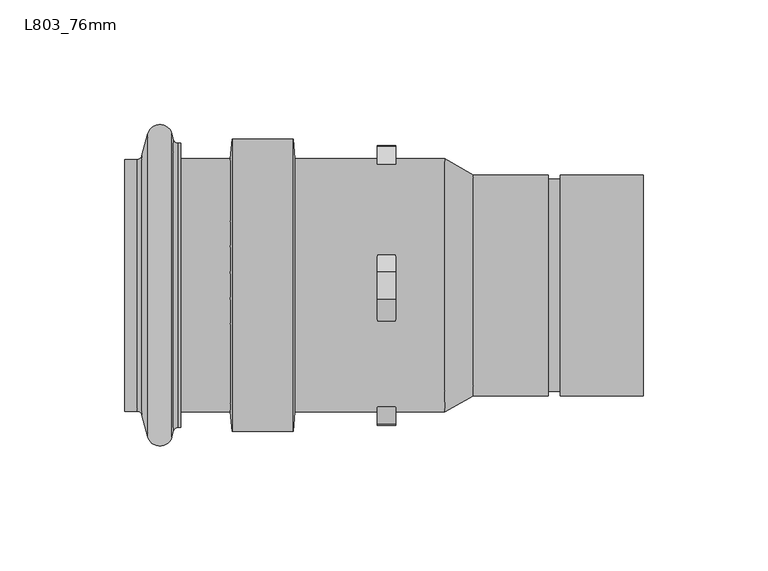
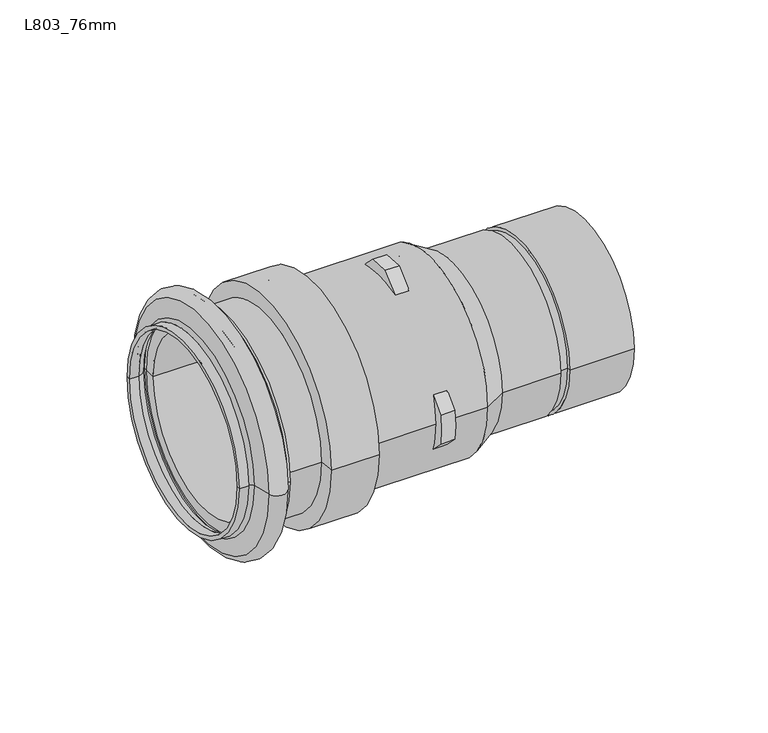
"""IFC4 building model written with IfcOpenShell, lengths in millimetres: pipe fitting geometry, Durapipe_PipeFitting_VulcatheneEnfusion_ThermalStressReliefUnit_L80 : L803_76mm."""

from ifc_helpers import new_model, si_unit, point, frame, origin, place, context, project, spatial, polyline, circle_curve, ellipse_curve, trimmed, source, transform, mapped, element, save
from ifc_brep_helpers import plane_surface, cylinder_surface, revolved_surface, advanced_brep


def l803_76mm_d1b0d75b(model_context):
    return source(origin(), model_context, "Body", "AdvancedBrep", [
        advanced_brep(
        [(70.6511863, -42.6605889, 0.0), (70.6511863, 42.6605889, 0.0), (70.6511863, 44.285, 0.0), (70.6511863, -44.285, 0.0), (65.9011863, -42.6605889, 0.0), (65.9011863, 42.6605889, 0.0), (65.9011863, -44.3009939, 0.0), (65.9011863, 44.3009939, 0.0), (35.8928021, -44.3009939, 0.0), (35.8928021, 44.3009939, 0.0), (24.4629882, -50.9, 0.0), (24.4629882, 50.9, 0.0), (4.656689, -50.9, 0.0), (4.656689, -48.6786742, -14.8726824), (-2.6993852, -48.6786742, -14.8726824), (-2.6993852, -50.9, 0.0), (-35.702791, -50.9, 0.0), (-35.702791, 50.9, 0.0), (-2.6993852, 50.9, 0.0), (-2.6993852, 48.6786742, -14.8726824), (4.656689, 48.6786742, -14.8726824), (4.656689, 50.9, 0.0), (4.656689, -14.6005507, -48.7609877), (4.656689, 12.4528205, -49.353189), (-2.6993852, 12.4528205, -49.353189), (-2.6993852, -14.6005507, -48.7609877), (4.656689, 48.6786742, 14.8726824), (-2.6993852, 48.6786742, 14.8726824), (-2.6993852, -48.6786742, 14.8726824), (4.656689, -48.6786742, 14.8726824), (4.656689, 12.4528205, 49.353189), (4.656689, -14.6005507, 48.7609877), (-2.6993852, -14.6005507, 48.7609877), (-2.6993852, 12.4528205, 49.353189), (-36.3808281, -58.65, 0.0), (-36.3808281, 58.65, 0.0), (-60.9219629, -58.65, 0.0), (-60.9219629, 58.65, 0.0), (-61.6, -50.9, 0.0), (-61.6, 50.9, 0.0), (-81.6, -50.9, 0.0), (-81.6, 50.9, 0.0), (-81.6, -57.0, 0.0), (-81.6, 57.0, 0.0), (-82.4906747, -57.0, 0.0), (-82.4906747, 57.0, 0.0), (-84.4225263, -58.4823619, 0.0), (-84.4225263, 58.4823619, 0.0), (-85.0534843, -60.8371291, 0.0), (-85.0534843, 60.8371291, 0.0), (-94.7127425, -60.8371291, 0.0), (-94.7127425, 60.8371291, 0.0), (-97.0851021, -51.9833626, 0.0), (-97.0851021, 51.9833626, 0.0), (-99.0182579, -50.5, 0.0), (-99.0182579, 50.5, 0.0), (-104.0, -50.5, 0.0), (-104.0, 50.5, 0.0), (-104.0, -48.5, 0.0), (-104.0, 48.5, 0.0), (-99.0182579, -48.5, 0.0), (-99.0182579, 48.5, 0.0), (-95.1532505, -51.4657245, 0.0), (-95.1532505, 51.4657245, 0.0), (-92.7808909, -60.319491, 0.0), (-92.7808909, 60.319491, 0.0), (-86.9853359, -60.319491, 0.0), (-86.9853359, 60.319491, 0.0), (-86.3638715, -57.9632181, 0.0), (-86.3638715, 57.9632181, 0.0), (-82.5060032, -55.0037398, 0.0), (-82.5060032, 55.0037398, 0.0), (-82.5060032, -50.9, 0.0), (-82.5060032, 50.9, 0.0), (-85.9212103, -50.9, 0.0), (-85.9212103, 50.9, 0.0), (-93.8774224, -50.9, 0.0), (-93.8774224, 50.9, 0.0), (-93.8774224, -44.7961146, 0.0), (-93.8774224, 44.7961146, 0.0), (-55.1274224, -44.7961146, 0.0), (-55.1274224, 44.7961146, 0.0), (-55.1274224, -53.0, 0.0), (-55.1274224, 53.0, 0.0), (-42.1274224, -53.0, 0.0), (-42.1274224, 53.0, 0.0), (-42.1274224, -44.7961146, 0.0), (-42.1274224, 44.7961146, 0.0), (22.8081209, -44.7961146, 0.0), (22.8081209, 44.7961146, 0.0), (34.4321124, -38.085, 0.0), (34.4321124, 38.085, 0.0), (104.0, -38.085, 0.0), (104.0, 38.085, 0.0), (104.0, -44.285, 0.0), (104.0, 44.285, 0.0), (4.656689, 5.4415035, 56.3645059), (4.656689, -5.4415035, 56.8451631), (4.656689, -5.4415035, -56.8451631), (4.656689, 5.4415035, -56.3645059), (4.656689, -55.6098531, 7.9415035), (4.656689, -55.6098531, -7.9415035), (4.656689, 55.6098531, -7.9415035), (4.656689, 55.6098531, 7.9415035), (-2.6993852, -5.4415035, 56.8451631), (-2.6993852, 5.4415035, 56.3645059), (-2.6993852, 5.4415035, -56.3645059), (-2.6993852, -5.4415035, -56.8451631), (-2.6993852, -55.6098531, -7.9415035), (-2.6993852, -55.6098531, 7.9415035), (-2.6993852, 55.6098531, 7.9415035), (-2.6993852, 55.6098531, -7.9415035)],
        [
            (0, 1, circle_curve(frame((70.6511863, 0.0, 0.0), z_axis=(1.0, 0.0, 0.0), x_axis=(0.0, 1.0, 0.0)), 42.6605889)),
            (1, 2),
            (2, 3, circle_curve(frame((70.6511863, 0.0, 0.0), z_axis=(-1.0, 0.0, 0.0), x_axis=(0.0, 1.0, 0.0)), 44.285)),
            (3, 0),
            (1, 0, circle_curve(frame((70.6511863, 0.0, 0.0), z_axis=(1.0, 0.0, 0.0), x_axis=(0.0, 1.0, 0.0)), 42.6605889)),
            (3, 2, circle_curve(frame((70.6511863, 0.0, 0.0), z_axis=(-1.0, 0.0, 0.0), x_axis=(0.0, 1.0, 0.0)), 44.285)),
            (0, 4),
            (4, 5, circle_curve(frame((65.9011863, 0.0, 0.0), z_axis=(1.0, 0.0, 0.0), x_axis=(0.0, 1.0, 0.0)), 42.6605889)),
            (5, 1),
            (5, 4, circle_curve(frame((65.9011863, 0.0, 0.0), z_axis=(1.0, 0.0, 0.0), x_axis=(0.0, 1.0, 0.0)), 42.6605889)),
            (4, 6),
            (6, 7, circle_curve(frame((65.9011863, 0.0, 0.0), z_axis=(1.0, 0.0, 0.0), x_axis=(0.0, 1.0, 0.0)), 44.3009939)),
            (7, 5),
            (7, 6, circle_curve(frame((65.9011863, 0.0, 0.0), z_axis=(1.0, 0.0, 0.0), x_axis=(0.0, 1.0, 0.0)), 44.3009939)),
            (6, 8),
            (8, 9, circle_curve(frame((35.8928021, 0.0, 0.0), z_axis=(1.0, 0.0, 0.0), x_axis=(0.0, 1.0, 0.0)), 44.3009939)),
            (9, 7),
            (9, 8, circle_curve(frame((35.8928021, 0.0, 0.0), z_axis=(1.0, 0.0, 0.0), x_axis=(0.0, 1.0, 0.0)), 44.3009939)),
            (8, 10),
            (10, 11, circle_curve(frame((24.4629882, 0.0, 0.0), z_axis=(1.0, 0.0, 0.0), x_axis=(0.0, 1.0, 0.0)), 50.9)),
            (11, 9),
            (11, 10, circle_curve(frame((24.4629882, 0.0, 0.0), z_axis=(1.0, 0.0, 0.0), x_axis=(0.0, 1.0, 0.0)), 50.9)),
            (10, 12),
            (12, 13, circle_curve(frame((4.656689, 0.0, 0.0), z_axis=(1.0, 0.0, 0.0), x_axis=(0.0, 1.0, 0.0)), 50.9)),
            (13, 14),
            (14, 15, circle_curve(frame((-2.6993852, 0.0, 0.0), z_axis=(-1.0, 0.0, 0.0), x_axis=(0.0, 1.0, 0.0)), 50.9)),
            (15, 16),
            (16, 17, circle_curve(frame((-35.702791, 0.0, 0.0), z_axis=(1.0, 0.0, 0.0), x_axis=(0.0, 1.0, 0.0)), 50.9)),
            (17, 18),
            (18, 19, circle_curve(frame((-2.6993852, 0.0, 0.0), z_axis=(-1.0, 0.0, 0.0), x_axis=(0.0, 1.0, 0.0)), 50.9)),
            (19, 20),
            (20, 21, circle_curve(frame((4.656689, 0.0, 0.0), z_axis=(1.0, 0.0, 0.0), x_axis=(0.0, 1.0, 0.0)), 50.9)),
            (21, 11),
            (22, 23, circle_curve(frame((4.656689, 0.0, 0.0), z_axis=(1.0, 0.0, 0.0), x_axis=(0.0, 1.0, 0.0)), 50.9)),
            (23, 24),
            (24, 25, circle_curve(frame((-2.6993852, 0.0, 0.0), z_axis=(-1.0, 0.0, 0.0), x_axis=(0.0, 1.0, 0.0)), 50.9)),
            (25, 22),
            (21, 26, circle_curve(frame((4.656689, 0.0, 0.0), z_axis=(1.0, 0.0, 0.0), x_axis=(0.0, 1.0, 0.0)), 50.9)),
            (26, 27),
            (27, 18, circle_curve(frame((-2.6993852, 0.0, 0.0), z_axis=(-1.0, 0.0, 0.0), x_axis=(0.0, 1.0, 0.0)), 50.9)),
            (17, 16, circle_curve(frame((-35.702791, 0.0, 0.0), z_axis=(1.0, 0.0, 0.0), x_axis=(0.0, 1.0, 0.0)), 50.9)),
            (15, 28, circle_curve(frame((-2.6993852, 0.0, 0.0), z_axis=(-1.0, 0.0, 0.0), x_axis=(0.0, 1.0, 0.0)), 50.9)),
            (28, 29),
            (29, 12, circle_curve(frame((4.656689, 0.0, 0.0), z_axis=(1.0, 0.0, 0.0), x_axis=(0.0, 1.0, 0.0)), 50.9)),
            (30, 31, circle_curve(frame((4.656689, 0.0, 0.0), z_axis=(1.0, 0.0, 0.0), x_axis=(0.0, 1.0, 0.0)), 50.9)),
            (31, 32),
            (32, 33, circle_curve(frame((-2.6993852, 0.0, 0.0), z_axis=(-1.0, 0.0, 0.0), x_axis=(0.0, 1.0, 0.0)), 50.9)),
            (33, 30),
            (16, 34),
            (34, 35, circle_curve(frame((-36.3808281, 0.0, 0.0), z_axis=(1.0, 0.0, 0.0), x_axis=(0.0, 1.0, 0.0)), 58.65)),
            (35, 17),
            (35, 34, circle_curve(frame((-36.3808281, 0.0, 0.0), z_axis=(1.0, 0.0, 0.0), x_axis=(0.0, 1.0, 0.0)), 58.65)),
            (34, 36),
            (36, 37, circle_curve(frame((-60.9219629, 0.0, 0.0), z_axis=(1.0, 0.0, 0.0), x_axis=(0.0, 1.0, 0.0)), 58.65)),
            (37, 35),
            (37, 36, circle_curve(frame((-60.9219629, 0.0, 0.0), z_axis=(1.0, 0.0, 0.0), x_axis=(0.0, 1.0, 0.0)), 58.65)),
            (36, 38),
            (38, 39, circle_curve(frame((-61.6, 0.0, 0.0), z_axis=(1.0, 0.0, 0.0), x_axis=(0.0, 1.0, 0.0)), 50.9)),
            (39, 37),
            (39, 38, circle_curve(frame((-61.6, 0.0, 0.0), z_axis=(1.0, 0.0, 0.0), x_axis=(0.0, 1.0, 0.0)), 50.9)),
            (38, 40),
            (40, 41, circle_curve(frame((-81.6, 0.0, 0.0), z_axis=(1.0, 0.0, 0.0), x_axis=(0.0, 1.0, 0.0)), 50.9)),
            (41, 39),
            (41, 40, circle_curve(frame((-81.6, 0.0, 0.0), z_axis=(1.0, 0.0, 0.0), x_axis=(0.0, 1.0, 0.0)), 50.9)),
            (40, 42),
            (42, 43, circle_curve(frame((-81.6, 0.0, 0.0), z_axis=(1.0, 0.0, 0.0), x_axis=(0.0, 1.0, 0.0)), 57.0)),
            (43, 41),
            (43, 42, circle_curve(frame((-81.6, 0.0, 0.0), z_axis=(1.0, 0.0, 0.0), x_axis=(0.0, 1.0, 0.0)), 57.0)),
            (42, 44),
            (44, 45, circle_curve(frame((-82.4906747, 0.0, 0.0), z_axis=(1.0, 0.0, 0.0), x_axis=(0.0, 1.0, 0.0)), 57.0)),
            (45, 43),
            (45, 44, circle_curve(frame((-82.4906747, 0.0, 0.0), z_axis=(1.0, 0.0, 0.0), x_axis=(0.0, 1.0, 0.0)), 57.0)),
            (44, 46, circle_curve(frame((-82.4906747, -59.0, 0.0), z_axis=(0.0, 0.0, 1.0), x_axis=(1.0, 0.0, 0.0)), 2.0)),
            (46, 47, circle_curve(frame((-84.4225263, 0.0, 0.0), z_axis=(1.0, 0.0, 0.0), x_axis=(0.0, 1.0, 0.0)), 58.4823619)),
            (47, 45, circle_curve(frame((-82.4906747, 59.0, 0.0), z_axis=(0.0, 0.0, 1.0), x_axis=(1.0, 0.0, 0.0)), 2.0)),
            (47, 46, circle_curve(frame((-84.4225263, 0.0, 0.0), z_axis=(1.0, 0.0, 0.0), x_axis=(0.0, 1.0, 0.0)), 58.4823619)),
            (46, 48),
            (48, 49, circle_curve(frame((-85.0534843, 0.0, 0.0), z_axis=(1.0, 0.0, 0.0), x_axis=(0.0, 1.0, 0.0)), 60.8371291)),
            (49, 47),
            (49, 48, circle_curve(frame((-85.0534843, 0.0, 0.0), z_axis=(1.0, 0.0, 0.0), x_axis=(0.0, 1.0, 0.0)), 60.8371291)),
            (48, 50, circle_curve(frame((-89.8831134, -59.5430339, 0.0), z_axis=(0.0, 0.0, -1.0), x_axis=(1.0, 0.0, 0.0)), 5.0)),
            (50, 51, circle_curve(frame((-94.7127425, 0.0, 0.0), z_axis=(1.0, 0.0, 0.0), x_axis=(0.0, 1.0, 0.0)), 60.8371291)),
            (51, 49, circle_curve(frame((-89.8831134, 59.5430339, 0.0), z_axis=(0.0, 0.0, -1.0), x_axis=(1.0, 0.0, 0.0)), 5.0)),
            (51, 50, circle_curve(frame((-94.7127425, 0.0, 0.0), z_axis=(1.0, 0.0, 0.0), x_axis=(0.0, 1.0, 0.0)), 60.8371291)),
            (50, 52),
            (52, 53, circle_curve(frame((-97.0851021, 0.0, 0.0), z_axis=(1.0, 0.0, 0.0), x_axis=(0.0, 1.0, 0.0)), 51.9833626)),
            (53, 51),
            (53, 52, circle_curve(frame((-97.0851021, 0.0, 0.0), z_axis=(1.0, 0.0, 0.0), x_axis=(0.0, 1.0, 0.0)), 51.9833626)),
            (52, 54, circle_curve(frame((-99.0182579, -52.5013501, 0.0), z_axis=(0.0, 0.0, 1.0), x_axis=(1.0, 0.0, 0.0)), 2.0013501)),
            (54, 55, circle_curve(frame((-99.0182579, 0.0, 0.0), z_axis=(1.0, 0.0, 0.0), x_axis=(0.0, 1.0, 0.0)), 50.5)),
            (55, 53, circle_curve(frame((-99.0182579, 52.5013501, 0.0), z_axis=(0.0, 0.0, 1.0), x_axis=(1.0, 0.0, 0.0)), 2.0013501)),
            (55, 54, circle_curve(frame((-99.0182579, 0.0, 0.0), z_axis=(1.0, 0.0, 0.0), x_axis=(0.0, 1.0, 0.0)), 50.5)),
            (54, 56),
            (56, 57, circle_curve(frame((-104.0, 0.0, 0.0), z_axis=(1.0, 0.0, 0.0), x_axis=(0.0, 1.0, 0.0)), 50.5)),
            (57, 55),
            (57, 56, circle_curve(frame((-104.0, 0.0, 0.0), z_axis=(1.0, 0.0, 0.0), x_axis=(0.0, 1.0, 0.0)), 50.5)),
            (56, 58),
            (58, 59, circle_curve(frame((-104.0, 0.0, 0.0), z_axis=(1.0, 0.0, 0.0), x_axis=(0.0, 1.0, 0.0)), 48.5)),
            (59, 57),
            (59, 58, circle_curve(frame((-104.0, 0.0, 0.0), z_axis=(1.0, 0.0, 0.0), x_axis=(0.0, 1.0, 0.0)), 48.5)),
            (58, 60),
            (60, 61, circle_curve(frame((-99.0182579, 0.0, 0.0), z_axis=(1.0, 0.0, 0.0), x_axis=(0.0, 1.0, 0.0)), 48.5)),
            (61, 59),
            (61, 60, circle_curve(frame((-99.0182579, 0.0, 0.0), z_axis=(1.0, 0.0, 0.0), x_axis=(0.0, 1.0, 0.0)), 48.5)),
            (60, 62, circle_curve(frame((-99.0182579, -52.5013501, 0.0), z_axis=(0.0, 0.0, -1.0), x_axis=(1.0, 0.0, 0.0)), 4.0013501)),
            (62, 63, circle_curve(frame((-95.1532505, 0.0, 0.0), z_axis=(1.0, 0.0, 0.0), x_axis=(0.0, 1.0, 0.0)), 51.4657245)),
            (63, 61, circle_curve(frame((-99.0182579, 52.5013501, 0.0), z_axis=(0.0, 0.0, -1.0), x_axis=(1.0, 0.0, 0.0)), 4.0013501)),
            (63, 62, circle_curve(frame((-95.1532505, 0.0, 0.0), z_axis=(1.0, 0.0, 0.0), x_axis=(0.0, 1.0, 0.0)), 51.4657245)),
            (62, 64),
            (64, 65, circle_curve(frame((-92.7808909, 0.0, 0.0), z_axis=(1.0, 0.0, 0.0), x_axis=(0.0, 1.0, 0.0)), 60.319491)),
            (65, 63),
            (65, 64, circle_curve(frame((-92.7808909, 0.0, 0.0), z_axis=(1.0, 0.0, 0.0), x_axis=(0.0, 1.0, 0.0)), 60.319491)),
            (64, 66, circle_curve(frame((-89.8831134, -59.5430339, 0.0), z_axis=(0.0, 0.0, 1.0), x_axis=(1.0, 0.0, 0.0)), 3.0)),
            (66, 67, circle_curve(frame((-86.9853359, 0.0, 0.0), z_axis=(1.0, 0.0, 0.0), x_axis=(0.0, 1.0, 0.0)), 60.319491)),
            (67, 65, circle_curve(frame((-89.8831134, 59.5430339, 0.0), z_axis=(0.0, 0.0, 1.0), x_axis=(1.0, 0.0, 0.0)), 3.0)),
            (67, 66, circle_curve(frame((-86.9853359, 0.0, 0.0), z_axis=(1.0, 0.0, 0.0), x_axis=(0.0, 1.0, 0.0)), 60.319491)),
            (66, 68),
            (68, 69, circle_curve(frame((-86.3638715, 0.0, 0.0), z_axis=(1.0, 0.0, 0.0), x_axis=(0.0, 1.0, 0.0)), 57.9632181)),
            (69, 67),
            (69, 68, circle_curve(frame((-86.3638715, 0.0, 0.0), z_axis=(1.0, 0.0, 0.0), x_axis=(0.0, 1.0, 0.0)), 57.9632181)),
            (68, 70, circle_curve(frame((-82.5060032, -58.9979674, 0.0), z_axis=(0.0, 0.0, -1.0), x_axis=(1.0, 0.0, 0.0)), 3.9942276)),
            (70, 71, circle_curve(frame((-82.5060032, 0.0, 0.0), z_axis=(1.0, 0.0, 0.0), x_axis=(0.0, 1.0, 0.0)), 55.0037398)),
            (71, 69, circle_curve(frame((-82.5060032, 58.9979674, 0.0), z_axis=(0.0, 0.0, -1.0), x_axis=(1.0, 0.0, 0.0)), 3.9942276)),
            (71, 70, circle_curve(frame((-82.5060032, 0.0, 0.0), z_axis=(1.0, 0.0, 0.0), x_axis=(0.0, 1.0, 0.0)), 55.0037398)),
            (70, 72),
            (72, 73, circle_curve(frame((-82.5060032, 0.0, 0.0), z_axis=(1.0, 0.0, 0.0), x_axis=(0.0, 1.0, 0.0)), 50.9)),
            (73, 71),
            (73, 72, circle_curve(frame((-82.5060032, 0.0, 0.0), z_axis=(1.0, 0.0, 0.0), x_axis=(0.0, 1.0, 0.0)), 50.9)),
            (72, 74),
            (74, 75, circle_curve(frame((-85.9212103, 0.0, 0.0), z_axis=(1.0, 0.0, 0.0), x_axis=(0.0, 1.0, 0.0)), 50.9)),
            (75, 73),
            (75, 74, circle_curve(frame((-85.9212103, 0.0, 0.0), z_axis=(1.0, 0.0, 0.0), x_axis=(0.0, 1.0, 0.0)), 50.9)),
            (74, 76, circle_curve(frame((-89.8993163, -50.9, 0.0), z_axis=(0.0, 0.0, -1.0), x_axis=(1.0, 0.0, 0.0)), 3.9781061)),
            (76, 77, circle_curve(frame((-93.8774224, 0.0, 0.0), z_axis=(1.0, 0.0, 0.0), x_axis=(0.0, 1.0, 0.0)), 50.9)),
            (77, 75, circle_curve(frame((-89.8993163, 50.9, 0.0), z_axis=(0.0, 0.0, -1.0), x_axis=(1.0, 0.0, 0.0)), 3.9781061)),
            (77, 76, circle_curve(frame((-93.8774224, 0.0, 0.0), z_axis=(1.0, 0.0, 0.0), x_axis=(0.0, 1.0, 0.0)), 50.9)),
            (76, 78),
            (78, 79, circle_curve(frame((-93.8774224, 0.0, 0.0), z_axis=(1.0, 0.0, 0.0), x_axis=(0.0, 1.0, 0.0)), 44.7961146)),
            (79, 77),
            (79, 78, circle_curve(frame((-93.8774224, 0.0, 0.0), z_axis=(1.0, 0.0, 0.0), x_axis=(0.0, 1.0, 0.0)), 44.7961146)),
            (78, 80),
            (80, 81, circle_curve(frame((-55.1274224, 0.0, 0.0), z_axis=(1.0, 0.0, 0.0), x_axis=(0.0, 1.0, 0.0)), 44.7961146)),
            (81, 79),
            (81, 80, circle_curve(frame((-55.1274224, 0.0, 0.0), z_axis=(1.0, 0.0, 0.0), x_axis=(0.0, 1.0, 0.0)), 44.7961146)),
            (80, 82),
            (82, 83, circle_curve(frame((-55.1274224, 0.0, 0.0), z_axis=(1.0, 0.0, 0.0), x_axis=(0.0, 1.0, 0.0)), 53.0)),
            (83, 81),
            (83, 82, circle_curve(frame((-55.1274224, 0.0, 0.0), z_axis=(1.0, 0.0, 0.0), x_axis=(0.0, 1.0, 0.0)), 53.0)),
            (82, 84),
            (84, 85, circle_curve(frame((-42.1274224, 0.0, 0.0), z_axis=(1.0, 0.0, 0.0), x_axis=(0.0, 1.0, 0.0)), 53.0)),
            (85, 83),
            (85, 84, circle_curve(frame((-42.1274224, 0.0, 0.0), z_axis=(1.0, 0.0, 0.0), x_axis=(0.0, 1.0, 0.0)), 53.0)),
            (84, 86),
            (86, 87, circle_curve(frame((-42.1274224, 0.0, 0.0), z_axis=(1.0, 0.0, 0.0), x_axis=(0.0, 1.0, 0.0)), 44.7961146)),
            (87, 85),
            (87, 86, circle_curve(frame((-42.1274224, 0.0, 0.0), z_axis=(1.0, 0.0, 0.0), x_axis=(0.0, 1.0, 0.0)), 44.7961146)),
            (86, 88),
            (88, 89, circle_curve(frame((22.8081209, 0.0, 0.0), z_axis=(1.0, 0.0, 0.0), x_axis=(0.0, 1.0, 0.0)), 44.7961146)),
            (89, 87),
            (89, 88, circle_curve(frame((22.8081209, 0.0, 0.0), z_axis=(1.0, 0.0, 0.0), x_axis=(0.0, 1.0, 0.0)), 44.7961146)),
            (88, 90),
            (90, 91, circle_curve(frame((34.4321124, 0.0, 0.0), z_axis=(1.0, 0.0, 0.0), x_axis=(0.0, 1.0, 0.0)), 38.085)),
            (91, 89),
            (91, 90, circle_curve(frame((34.4321124, 0.0, 0.0), z_axis=(1.0, 0.0, 0.0), x_axis=(0.0, 1.0, 0.0)), 38.085)),
            (90, 92),
            (92, 93, circle_curve(frame((104.0, 0.0, 0.0), z_axis=(1.0, 0.0, 0.0), x_axis=(0.0, 1.0, 0.0)), 38.085)),
            (93, 91),
            (93, 92, circle_curve(frame((104.0, 0.0, 0.0), z_axis=(1.0, 0.0, 0.0), x_axis=(0.0, 1.0, 0.0)), 38.085)),
            (92, 94),
            (94, 95, circle_curve(frame((104.0, 0.0, 0.0), z_axis=(1.0, 0.0, 0.0), x_axis=(0.0, 1.0, 0.0)), 44.285)),
            (95, 93),
            (95, 94, circle_curve(frame((104.0, 0.0, 0.0), z_axis=(1.0, 0.0, 0.0), x_axis=(0.0, 1.0, 0.0)), 44.285)),
            (2, 95),
            (94, 3),
            (96, 97, circle_curve(frame((4.656689, -2.5, 0.0), z_axis=(1.0, 0.0, 0.0), x_axis=(0.0, 1.0, 0.0)), 56.9212175)),
            (97, 31),
            (30, 96),
            (98, 99, circle_curve(frame((4.656689, -2.5, 0.0), z_axis=(1.0, 0.0, 0.0), x_axis=(0.0, 1.0, 0.0)), 56.9212175)),
            (99, 23),
            (22, 98),
            (100, 101, circle_curve(frame((4.656689, -2.5, 0.0), z_axis=(1.0, 0.0, 0.0), x_axis=(0.0, 1.0, 0.0)), 53.7003163)),
            (101, 13),
            (29, 100),
            (102, 103, circle_curve(frame((4.656689, -2.5, 0.0), z_axis=(1.0, 0.0, 0.0), x_axis=(0.0, 1.0, 0.0)), 58.65)),
            (103, 26),
            (20, 102),
            (104, 105, circle_curve(frame((-2.6993852, -2.5, 0.0), z_axis=(-1.0, 0.0, 0.0), x_axis=(0.0, 1.0, 0.0)), 56.9212175)),
            (105, 33),
            (32, 104),
            (106, 107, circle_curve(frame((-2.6993852, -2.5, 0.0), z_axis=(-1.0, 0.0, 0.0), x_axis=(0.0, 1.0, 0.0)), 56.9212175)),
            (107, 25),
            (24, 106),
            (108, 109, circle_curve(frame((-2.6993852, -2.5, 0.0), z_axis=(-1.0, 0.0, 0.0), x_axis=(0.0, 1.0, 0.0)), 53.7003163)),
            (109, 28),
            (14, 108),
            (110, 111, circle_curve(frame((-2.6993852, -2.5, 0.0), z_axis=(-1.0, 0.0, 0.0), x_axis=(0.0, 1.0, 0.0)), 58.65)),
            (111, 19),
            (27, 110),
            (105, 96),
            (104, 97),
            (107, 98),
            (106, 99),
            (109, 100),
            (108, 101),
            (111, 102),
            (110, 103),
        ],
        [
            plane_surface(frame((70.6511863, 0.0, 0.0), z_axis=(-1.0, 0.0, 0.0), x_axis=(0.0, 1.0, 0.0))),
            cylinder_surface(frame((-117.0037928, 0.0, 0.0), z_axis=(-1.0, 0.0, 0.0), x_axis=(0.0, 1.0, 0.0)), 42.6605889),
            plane_surface(frame((65.9011863, 0.0, 0.0), z_axis=(1.0, 0.0, 0.0), x_axis=(0.0, 1.0, 0.0))),
            cylinder_surface(frame((-117.0037928, 0.0, 0.0), z_axis=(-1.0, 0.0, 0.0), x_axis=(0.0, 1.0, 0.0)), 44.3009939),
            revolved_surface(polyline([(35.8928021, 44.3009939, 0.0), (24.4629882, 50.9, 0.0)]), (-117.0037928, 0.0, 0.0), (-1.0, 0.0, 0.0)),
            cylinder_surface(frame((-117.0037928, 0.0, 0.0), z_axis=(-1.0, 0.0, 0.0), x_axis=(0.0, 1.0, 0.0)), 50.9),
            revolved_surface(polyline([(-35.702791, 50.9, 0.0), (-36.3808281, 58.65, 0.0)]), (-117.0037928, 0.0, 0.0), (-1.0, 0.0, 0.0)),
            cylinder_surface(frame((-117.0037928, 0.0, 0.0), z_axis=(-1.0, 0.0, 0.0), x_axis=(0.0, 1.0, 0.0)), 58.65),
            revolved_surface(polyline([(-60.9219629, 58.65, 0.0), (-61.6, 50.9, 0.0)]), (-117.0037928, 0.0, 0.0), (-1.0, 0.0, 0.0)),
            plane_surface(frame((-81.6, 0.0, 0.0), z_axis=(1.0, 0.0, 0.0), x_axis=(0.0, 1.0, 0.0))),
            cylinder_surface(frame((-117.0037928, 0.0, 0.0), z_axis=(-1.0, 0.0, 0.0), x_axis=(0.0, 1.0, 0.0)), 57.0),
            revolved_surface(trimmed(ellipse_curve(frame((-82.4906747, 59.0, 0.0), z_axis=(0.0, 0.0, -1.0), x_axis=(1.0, 0.0, 0.0)), 2.0, 2.0), [point((-82.4906747, 57.0, 0.0))], [point((-84.4225263, 58.4823619, 0.0))], True, "CARTESIAN"), (-117.0037928, 0.0, 0.0), (-1.0, 0.0, 0.0)),
            revolved_surface(polyline([(-84.4225263, 58.4823619, 0.0), (-85.0534843, 60.8371291, 0.0)]), (-117.0037928, 0.0, 0.0), (-1.0, 0.0, 0.0)),
            revolved_surface(trimmed(ellipse_curve(frame((-89.8831134, 59.5430339, 0.0), z_axis=(0.0, 0.0, 1.0), x_axis=(1.0, 0.0, 0.0)), 5.0, 5.0), [point((-85.0534843, 60.8371291, 0.0))], [point((-94.7127425, 60.8371291, 0.0))], True, "CARTESIAN"), (-117.0037928, 0.0, 0.0), (-1.0, 0.0, 0.0)),
            revolved_surface(polyline([(-94.7127425, 60.8371291, 0.0), (-97.0851021, 51.9833626, 0.0)]), (-117.0037928, 0.0, 0.0), (-1.0, 0.0, 0.0)),
            revolved_surface(trimmed(ellipse_curve(frame((-99.0182579, 52.5013501, 0.0), z_axis=(0.0, 0.0, -1.0), x_axis=(1.0, 0.0, 0.0)), 2.0013501, 2.0013501), [point((-97.0851021, 51.9833626, 0.0))], [point((-99.0182579, 50.5, 0.0))], True, "CARTESIAN"), (-117.0037928, 0.0, 0.0), (-1.0, 0.0, 0.0)),
            cylinder_surface(frame((-117.0037928, 0.0, 0.0), z_axis=(-1.0, 0.0, 0.0), x_axis=(0.0, 1.0, 0.0)), 50.5),
            plane_surface(frame((-104.0, 0.0, 0.0), z_axis=(-1.0, 0.0, 0.0), x_axis=(0.0, 1.0, 0.0))),
            revolved_surface(polyline([(-104.0, 48.5, 0.0), (-99.0182579, 48.5, 0.0)]), (-117.0037928, 0.0, 0.0), (-1.0, 0.0, 0.0)),
            revolved_surface(trimmed(ellipse_curve(frame((-99.0182579, 52.5013501, 0.0), z_axis=(0.0, 0.0, 1.0), x_axis=(1.0, 0.0, 0.0)), 4.0013501, 4.0013501), [point((-99.0182579, 48.5, 0.0))], [point((-95.1532505, 51.4657245, 0.0))], True, "CARTESIAN"), (-117.0037928, 0.0, 0.0), (-1.0, 0.0, 0.0)),
            revolved_surface(polyline([(-95.1532505, 51.4657245, 0.0), (-92.7808909, 60.319491, 0.0)]), (-117.0037928, 0.0, 0.0), (-1.0, 0.0, 0.0)),
            revolved_surface(trimmed(ellipse_curve(frame((-89.8831134, 59.5430339, 0.0), z_axis=(0.0, 0.0, -1.0), x_axis=(1.0, 0.0, 0.0)), 3.0, 3.0), [point((-92.7808909, 60.319491, 0.0))], [point((-86.9853359, 60.319491, 0.0))], True, "CARTESIAN"), (-117.0037928, 0.0, 0.0), (-1.0, 0.0, 0.0)),
            revolved_surface(polyline([(-86.9853359, 60.319491, 0.0), (-86.3638715, 57.9632181, 0.0)]), (-117.0037928, 0.0, 0.0), (-1.0, 0.0, 0.0)),
            revolved_surface(trimmed(ellipse_curve(frame((-82.5060032, 58.9979674, 0.0), z_axis=(0.0, 0.0, 1.0), x_axis=(1.0, 0.0, 0.0)), 3.9942276, 3.9942276), [point((-86.3638715, 57.9632181, 0.0))], [point((-82.5060032, 55.0037398, 0.0))], True, "CARTESIAN"), (-117.0037928, 0.0, 0.0), (-1.0, 0.0, 0.0)),
            plane_surface(frame((-82.5060032, 0.0, 0.0), z_axis=(-1.0, 0.0, 0.0), x_axis=(0.0, 1.0, 0.0))),
            revolved_surface(trimmed(ellipse_curve(frame((-89.8993163, 50.9, 0.0), z_axis=(0.0, 0.0, 1.0), x_axis=(1.0, 0.0, 0.0)), 3.9781061, 3.9781061), [point((-85.9212103, 50.9, 0.0))], [point((-93.8774224, 50.9, 0.0))], True, "CARTESIAN"), (-117.0037928, 0.0, 0.0), (-1.0, 0.0, 0.0)),
            plane_surface(frame((-93.8774224, 0.0, 0.0), z_axis=(-1.0, 0.0, 0.0), x_axis=(0.0, 1.0, 0.0))),
            revolved_surface(polyline([(-93.8774224, 44.7961146, 0.0), (-55.1274224, 44.7961146, 0.0)]), (-117.0037928, 0.0, 0.0), (-1.0, 0.0, 0.0)),
            plane_surface(frame((-55.1274224, 0.0, 0.0), z_axis=(1.0, 0.0, 0.0), x_axis=(0.0, 1.0, 0.0))),
            revolved_surface(polyline([(-55.1274224, 53.0, 0.0), (-42.1274224, 53.0, 0.0)]), (-117.0037928, 0.0, 0.0), (-1.0, 0.0, 0.0)),
            plane_surface(frame((-42.1274224, 0.0, 0.0), z_axis=(-1.0, 0.0, 0.0), x_axis=(0.0, 1.0, 0.0))),
            revolved_surface(polyline([(-42.1274224, 44.7961146, 0.0), (22.80812089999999, 44.7961146, 0.0)]), (-117.0037928, 0.0, 0.0), (-1.0, 0.0, 0.0)),
            revolved_surface(polyline([(22.8081209, 44.7961146, 0.0), (34.4321124, 38.085, 0.0)]), (-117.0037928, 0.0, 0.0), (-1.0, 0.0, 0.0)),
            revolved_surface(polyline([(34.43211240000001, 38.085, 0.0), (103.99999999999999, 38.085, 0.0)]), (-117.0037928, 0.0, 0.0), (-1.0, 0.0, 0.0)),
            plane_surface(frame((104.0, 0.0, 0.0), z_axis=(1.0, 0.0, 0.0), x_axis=(0.0, 1.0, 0.0))),
            cylinder_surface(frame((-117.0037928, 0.0, 0.0), z_axis=(-1.0, 0.0, 0.0), x_axis=(0.0, 1.0, 0.0)), 44.285),
            plane_surface(frame((4.656689, 5.4415035, 56.3645059), z_axis=(1.0, 0.0, 0.0), x_axis=(0.0, -0.7071067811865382, 0.7071067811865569))),
            plane_surface(frame((-2.6993852, 5.4415035, 56.3645059), z_axis=(-1.0, 0.0, 0.0), x_axis=(0.0, 0.7071067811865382, -0.7071067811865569))),
            plane_surface(frame((4.656689, 16.2180029, 45.5880065), z_axis=(0.0, 0.7071067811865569, 0.7071067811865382), x_axis=(-1.0, 0.0, 0.0))),
            cylinder_surface(frame((-2.6993852, -2.5, 0.0), z_axis=(1.0, 0.0, 0.0), x_axis=(0.0, 1.0, 0.0)), 56.9212175),
            plane_surface(frame((4.656689, -5.4415035, 56.8451631), z_axis=(0.0, -0.6617441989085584, 0.7497296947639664), x_axis=(-1.0, 0.0, 0.0))),
            plane_surface(frame((4.656689, -16.2180029, -47.3333536), z_axis=(0.0, -0.6617441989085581, -0.7497296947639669), x_axis=(-1.0, 0.0, 0.0))),
            cylinder_surface(frame((0.0, -2.5, 0.0), z_axis=(1.0, 0.0, 0.0), x_axis=(0.0, 1.0, 0.0)), 56.9212175),
            plane_surface(frame((4.656689, 5.4415035, -56.3645059), z_axis=(0.0, 0.7071067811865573, -0.7071067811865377), x_axis=(-1.0, 0.0, 0.0))),
            plane_surface(frame((4.656689, -44.8333536, 18.7180029), z_axis=(0.0, -0.7071067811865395, 0.7071067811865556), x_axis=(-1.0, 0.0, 0.0))),
            cylinder_surface(frame((0.0, -2.5, 0.0), z_axis=(1.0, 0.0, 0.0), x_axis=(0.0, 1.0, 0.0)), 53.7003163),
            plane_surface(frame((4.656689, -55.6098531, -7.9415035), z_axis=(0.0, -0.707106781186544, -0.7071067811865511), x_axis=(-1.0, 0.0, 0.0))),
            plane_surface(frame((4.656689, 44.8333536, -18.7180029), z_axis=(0.0, 0.7071067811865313, -0.7071067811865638), x_axis=(-1.0, 0.0, 0.0))),
            cylinder_surface(frame((0.0, -2.5, 0.0), z_axis=(1.0, 0.0, 0.0), x_axis=(0.0, 1.0, 0.0)), 58.65),
            plane_surface(frame((4.656689, 55.6098531, 7.9415035), z_axis=(0.0, 0.7071067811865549, 0.7071067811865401), x_axis=(-1.0, 0.0, 0.0))),
        ],
        [
            (0, [[1, 2, 3, 4]]),
            (0, [[-2, 5, -4, 6]]),
            (1, [[-1, 7, 8, 9]]),
            (1, [[-5, -9, 10, -7]]),
            (2, [[-8, 11, 12, 13]]),
            (2, [[-10, -13, 14, -11]]),
            (3, [[-12, 15, 16, 17]]),
            (3, [[-14, -17, 18, -15]]),
            (4, [[-16, 19, 20, 21]]),
            (4, [[-18, -21, 22, -19]]),
            (5, [[-20, 23, 24, 25, 26, 27, 28, 29, 30, 31, 32, 33], [34, 35, 36, 37]]),
            (5, [[-22, -33, 38, 39, 40, -29, 41, -27, 42, 43, 44, -23], [45, 46, 47, 48]]),
            (6, [[-28, 49, 50, 51]]),
            (6, [[-41, -51, 52, -49]]),
            (7, [[-50, 53, 54, 55]]),
            (7, [[-52, -55, 56, -53]]),
            (8, [[-54, 57, 58, 59]]),
            (8, [[-56, -59, 60, -57]]),
            (5, [[-58, 61, 62, 63]]),
            (5, [[-60, -63, 64, -61]]),
            (9, [[-62, 65, 66, 67]]),
            (9, [[-64, -67, 68, -65]]),
            (10, [[-66, 69, 70, 71]]),
            (10, [[-68, -71, 72, -69]]),
            (11, [[-70, 73, 74, 75]]),
            (11, [[-72, -75, 76, -73]]),
            (12, [[-74, 77, 78, 79]]),
            (12, [[-76, -79, 80, -77]]),
            (13, [[-78, 81, 82, 83]]),
            (13, [[-80, -83, 84, -81]]),
            (14, [[-82, 85, 86, 87]]),
            (14, [[-84, -87, 88, -85]]),
            (15, [[-86, 89, 90, 91]]),
            (15, [[-88, -91, 92, -89]]),
            (16, [[-90, 93, 94, 95]]),
            (16, [[-92, -95, 96, -93]]),
            (17, [[-94, 97, 98, 99]]),
            (17, [[-96, -99, 100, -97]]),
            (18, [[-98, 101, 102, 103]]),
            (18, [[-100, -103, 104, -101]]),
            (19, [[-102, 105, 106, 107]]),
            (19, [[-104, -107, 108, -105]]),
            (20, [[-106, 109, 110, 111]]),
            (20, [[-108, -111, 112, -109]]),
            (21, [[-110, 113, 114, 115]]),
            (21, [[-112, -115, 116, -113]]),
            (22, [[-114, 117, 118, 119]]),
            (22, [[-116, -119, 120, -117]]),
            (23, [[-118, 121, 122, 123]]),
            (23, [[-120, -123, 124, -121]]),
            (24, [[-122, 125, 126, 127]]),
            (24, [[-124, -127, 128, -125]]),
            (5, [[-126, 129, 130, 131]]),
            (5, [[-128, -131, 132, -129]]),
            (25, [[-130, 133, 134, 135]]),
            (25, [[-132, -135, 136, -133]]),
            (26, [[-134, 137, 138, 139]]),
            (26, [[-136, -139, 140, -137]]),
            (27, [[-138, 141, 142, 143]]),
            (27, [[-140, -143, 144, -141]]),
            (28, [[-142, 145, 146, 147]]),
            (28, [[-144, -147, 148, -145]]),
            (29, [[-146, 149, 150, 151]]),
            (29, [[-148, -151, 152, -149]]),
            (30, [[-150, 153, 154, 155]]),
            (30, [[-152, -155, 156, -153]]),
            (31, [[-154, 157, 158, 159]]),
            (31, [[-156, -159, 160, -157]]),
            (32, [[-158, 161, 162, 163]]),
            (32, [[-160, -163, 164, -161]]),
            (33, [[-162, 165, 166, 167]]),
            (33, [[-164, -167, 168, -165]]),
            (34, [[-166, 169, 170, 171]]),
            (34, [[-168, -171, 172, -169]]),
            (35, [[-3, 173, -170, 174]]),
            (35, [[-6, -174, -172, -173]]),
            (36, [[175, 176, -45, 177]]),
            (36, [[178, 179, -34, 180]]),
            (36, [[181, 182, -24, -44, 183]]),
            (36, [[184, 185, -38, -32, 186]]),
            (37, [[187, 188, -47, 189]]),
            (37, [[190, 191, -36, 192]]),
            (37, [[193, 194, -42, -26, 195]]),
            (37, [[196, 197, -30, -40, 198]]),
            (38, [[199, -177, -48, -188]]),
            (39, [[-175, -199, -187, 200]]),
            (40, [[-200, -189, -46, -176]]),
            (41, [[201, -180, -37, -191]]),
            (42, [[-178, -201, -190, 202]]),
            (43, [[-202, -192, -35, -179]]),
            (44, [[203, -183, -43, -194]]),
            (45, [[-181, -203, -193, 204]]),
            (46, [[-204, -195, -25, -182]]),
            (47, [[205, -186, -31, -197]]),
            (48, [[-184, -205, -196, 206]]),
            (49, [[-206, -198, -39, -185]]),
        ],
    ),
    ])


if __name__ == "__main__":
    model = new_model("IFC4")
    model_context = context("Model", 3, world=origin())
    ifc_project = project(units=[si_unit("LENGTHUNIT", "METRE", prefix="MILLI")], contexts=[model_context])
    site = spatial("IfcSite", under=ifc_project)
    building = spatial("IfcBuilding", under=site)
    placement = place(None, origin())
    l803_76mm_shape = l803_76mm_d1b0d75b(model_context)
    element("IfcPipeFitting", 1, ObjectType="Durapipe_PipeFitting_VulcatheneEnfusion_ThermalStressReliefUnit_L80 : L803_76mm", at=placement, inside=building, context=model_context, shape_type="MappedRepresentation", body=[
        mapped(l803_76mm_shape, transform((0.0, 0.0, 0.0), x_axis=(1.0, 0.0, 0.0), y_axis=(0.0, 1.0, 0.0), z_axis=(0.0, 0.0, 1.0))),
    ])
    save(model, "model.ifc")
